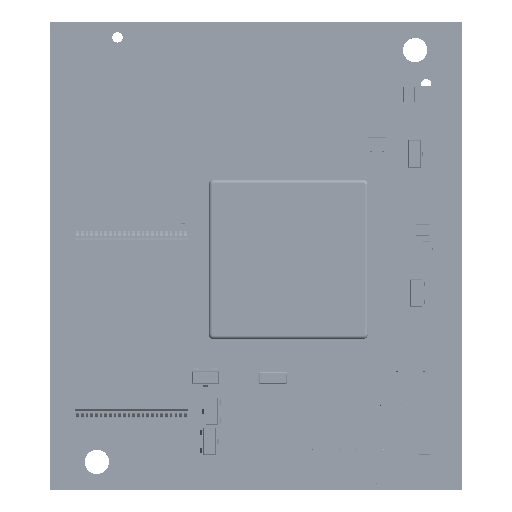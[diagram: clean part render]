
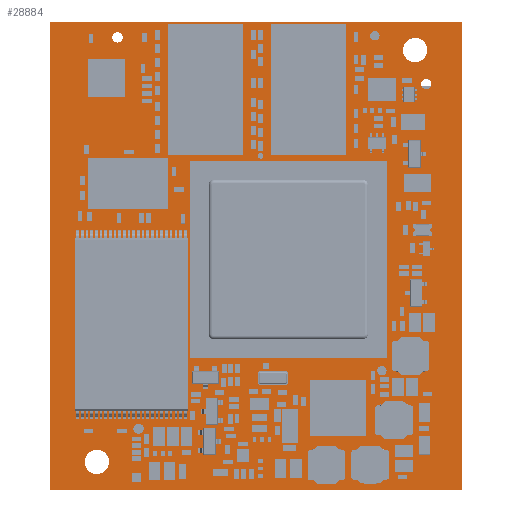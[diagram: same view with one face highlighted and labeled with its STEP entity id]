
A CAD part, top view. The second image highlights one B-rep face of the part: STEP entity #28884.
In plain terms, the highlighted planar face has unit normal (0, 0, 1).
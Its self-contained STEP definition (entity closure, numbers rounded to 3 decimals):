
#28884=ADVANCED_FACE('',(#52621,#52622,#52623,#52624,#52625,#52626),#52627,.T.);
#52621=FACE_OUTER_BOUND('',#80250,.T.);
#52622=FACE_BOUND('',#80251,.T.);
#52623=FACE_BOUND('',#80252,.T.);
#52624=FACE_BOUND('',#80253,.T.);
#52625=FACE_BOUND('',#80254,.T.);
#52626=FACE_BOUND('',#80255,.T.);
#52627=PLANE('',#80256);
#80250=EDGE_LOOP('',(#115206,#115207,#115208,#115209));
#80251=EDGE_LOOP('',(#115210));
#80252=EDGE_LOOP('',(#115211));
#80253=EDGE_LOOP('',(#115212));
#80254=EDGE_LOOP('',(#115213));
#80255=EDGE_LOOP('',(#115214));
#80256=AXIS2_PLACEMENT_3D('',#115215,#115216,#115217);
#115206=ORIENTED_EDGE('',*,*,#126071,.T.);
#115207=ORIENTED_EDGE('',*,*,#126072,.T.);
#115208=ORIENTED_EDGE('',*,*,#126073,.T.);
#115209=ORIENTED_EDGE('',*,*,#126074,.T.);
#115210=ORIENTED_EDGE('',*,*,#126075,.T.);
#115211=ORIENTED_EDGE('',*,*,#126076,.T.);
#115212=ORIENTED_EDGE('',*,*,#126077,.T.);
#115213=ORIENTED_EDGE('',*,*,#126069,.T.);
#115214=ORIENTED_EDGE('',*,*,#126066,.T.);
#115215=CARTESIAN_POINT('',(22.0,25.0,1.481));
#115216=DIRECTION('',(0.,0.0,1.0));
#115217=DIRECTION('',(1.0,-0.0,0.));
#126066=EDGE_CURVE('',#140185,#140185,#140186,.T.);
#126069=EDGE_CURVE('',#140190,#140190,#140191,.T.);
#126071=EDGE_CURVE('',#140193,#140194,#140195,.T.);
#126072=EDGE_CURVE('',#140194,#140196,#140197,.T.);
#126073=EDGE_CURVE('',#140196,#140198,#140199,.T.);
#126074=EDGE_CURVE('',#140198,#140193,#140200,.T.);
#126075=EDGE_CURVE('',#140201,#140201,#140202,.T.);
#126076=EDGE_CURVE('',#140203,#140203,#140204,.T.);
#126077=EDGE_CURVE('',#140205,#140205,#140206,.T.);
#140185=VERTEX_POINT('',#157870);
#140186=CIRCLE('',#157871,1.3);
#140190=VERTEX_POINT('',#157875);
#140191=CIRCLE('',#157876,1.3);
#140193=VERTEX_POINT('',#157878);
#140194=VERTEX_POINT('',#157879);
#140195=LINE('',#157880,#157881);
#140196=VERTEX_POINT('',#157882);
#140197=LINE('',#157883,#157884);
#140198=VERTEX_POINT('',#157885);
#140199=LINE('',#157886,#157887);
#140200=LINE('',#157888,#157889);
#140201=VERTEX_POINT('',#157890);
#140202=CIRCLE('',#157891,0.55);
#140203=VERTEX_POINT('',#157892);
#140204=CIRCLE('',#157893,0.55);
#140205=VERTEX_POINT('',#157894);
#140206=CIRCLE('',#157895,0.55);
#157870=CARTESIAN_POINT('',(37.7,47.0,1.481));
#157871=AXIS2_PLACEMENT_3D('',#170639,#170640,#170641);
#157875=CARTESIAN_POINT('',(3.7,3.0,1.481));
#157876=AXIS2_PLACEMENT_3D('',#170645,#170646,#170647);
#157878=CARTESIAN_POINT('',(0.,0.0,1.481));
#157879=CARTESIAN_POINT('',(44.0,0.0,1.481));
#157880=CARTESIAN_POINT('',(22.0,0.0,1.481));
#157881=VECTOR('',#170648,1.0);
#157882=CARTESIAN_POINT('',(44.0,50.0,1.481));
#157883=CARTESIAN_POINT('',(44.0,25.0,1.481));
#157884=VECTOR('',#170649,1.0);
#157885=CARTESIAN_POINT('',(0.,50.0,1.481));
#157886=CARTESIAN_POINT('',(22.0,50.0,1.481));
#157887=VECTOR('',#170650,1.0);
#157888=CARTESIAN_POINT('',(0.,25.0,1.481));
#157889=VECTOR('',#170651,1.0);
#157890=CARTESIAN_POINT('',(7.2,48.9,1.481));
#157891=AXIS2_PLACEMENT_3D('',#170652,#170653,#170654);
#157892=CARTESIAN_POINT('',(40.2,43.91,1.481));
#157893=AXIS2_PLACEMENT_3D('',#170655,#170656,#170657);
#157894=CARTESIAN_POINT('',(9.452,7.097,1.481));
#157895=AXIS2_PLACEMENT_3D('',#170658,#170659,#170660);
#170639=CARTESIAN_POINT('',(39.0,47.0,1.481));
#170640=DIRECTION('',(0.,0.0,-1.0));
#170641=DIRECTION('',(1.0,0.0,0.));
#170645=CARTESIAN_POINT('',(5.0,3.0,1.481));
#170646=DIRECTION('',(0.,0.0,-1.0));
#170647=DIRECTION('',(1.0,0.0,0.));
#170648=DIRECTION('',(1.0,0.0,0.0));
#170649=DIRECTION('',(0.0,1.0,0.0));
#170650=DIRECTION('',(-1.0,0.0,0.0));
#170651=DIRECTION('',(0.0,-1.0,0.0));
#170652=CARTESIAN_POINT('',(7.2,48.35,1.481));
#170653=DIRECTION('',(0.,0.0,-1.0));
#170654=DIRECTION('',(0.0,1.0,0.0));
#170655=CARTESIAN_POINT('',(40.2,43.36,1.481));
#170656=DIRECTION('',(0.,0.0,-1.0));
#170657=DIRECTION('',(0.0,1.0,0.0));
#170658=CARTESIAN_POINT('',(9.452,6.547,1.481));
#170659=DIRECTION('',(0.,0.0,-1.0));
#170660=DIRECTION('',(0.0,1.0,0.0));
